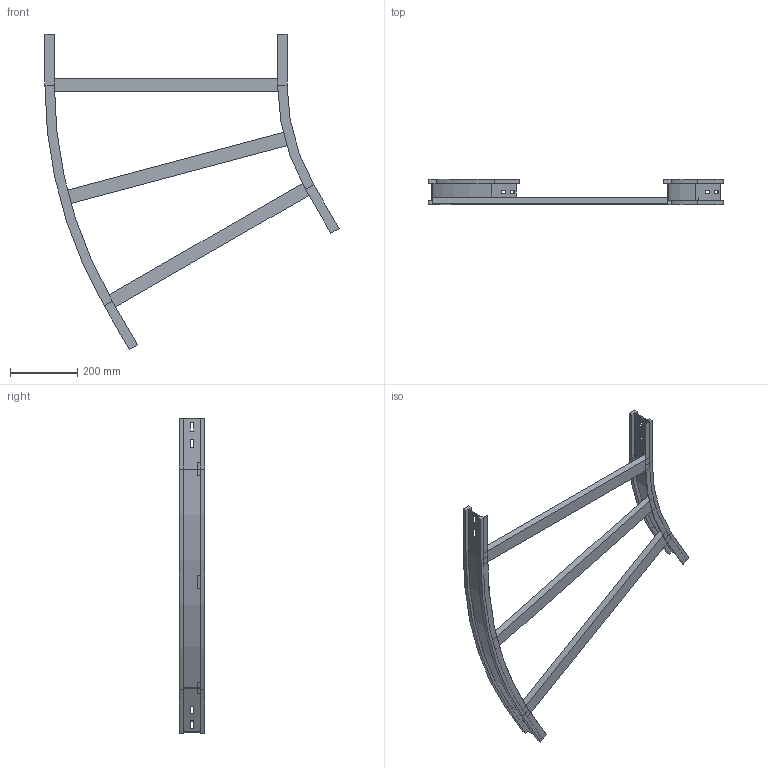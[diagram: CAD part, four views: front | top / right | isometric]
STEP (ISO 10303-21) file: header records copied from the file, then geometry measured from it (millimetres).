
FILE_DESCRIPTION (( 'STEP AP214' ), '1' );
FILE_NAME ('12S6C700.step', '2025-02-21T16:02:46', ( '' ), ( '' ), 'SwSTEP 2.0', 'SolidWorks 2023', '' );
FILE_SCHEMA (( 'AUTOMOTIVE_DESIGN' ));
Length unit declared in the file: millimetre
Products named in the file (4): LONGH.INTERNO 30°_H75_R600; TRAVERSINO_700; 12S6C700; LONGH.ESTERNO 30°_H75_R600+700
Assembly tree (5 placements, depth 2):
  12S6C700
    LONGH.INTERNO 30°_H75_R600
    LONGH.ESTERNO 30°_H75_R600+700
    TRAVERSINO_700  x3
Bounding box: 872.18 x 75 x 934.4 mm (x, y, z)
Volume: 2476866.3 mm3; surface area: 650982.9 mm2
Topology: 5 solids, 5 shells, 126 faces, 300 edges, 184 vertices
Faces by surface type: plane 114, cylinder 12
Entity records: 3389 total; most frequent: CARTESIAN_POINT 566, ORIENTED_EDGE 552, DIRECTION 544, EDGE_CURVE 276, LINE 252, VECTOR 252, VERTEX_POINT 168, AXIS2_PLACEMENT_3D 146
